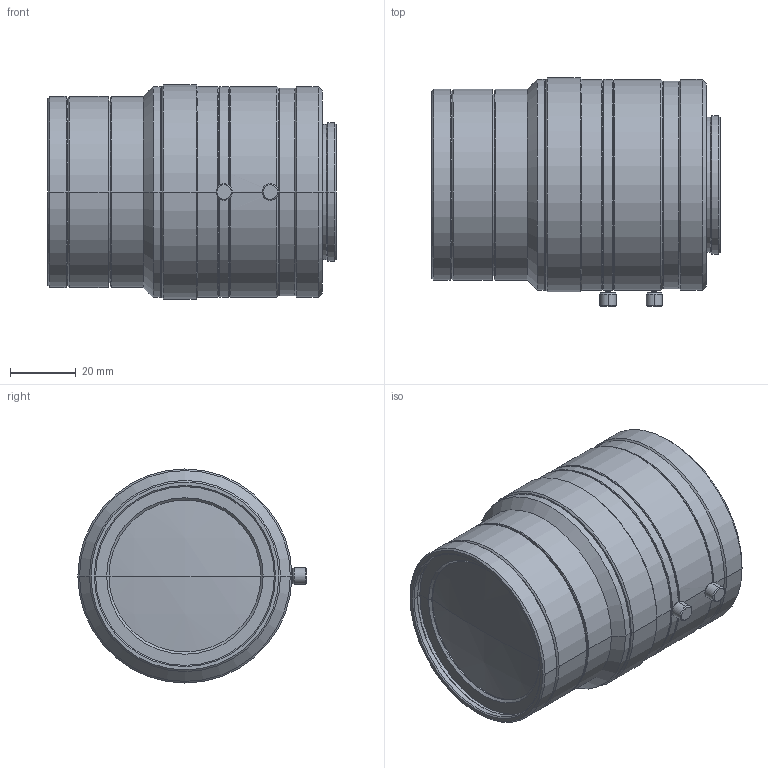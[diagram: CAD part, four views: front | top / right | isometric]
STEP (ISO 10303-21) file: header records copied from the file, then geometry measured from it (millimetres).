
FILE_DESCRIPTION (( 'STEP AP203' ), '1' );
FILE_NAME ('VS-25085_M42.STEP', '2020-07-31T02:04:01', ( '' ), ( '' ), 'SwSTEP 2.0', 'SolidWorks 2020', '' );
FILE_SCHEMA (( 'CONFIG_CONTROL_DESIGN' ));
Length unit declared in the file: millimetre
Products named in the file (1): VS-25085_M42
Bounding box: 87.46 x 69.3 x 65 mm (x, y, z)
Volume: 244086.8 mm3; surface area: 27196.1 mm2
Topology: 1 solids, 1 shells, 144 faces, 292 edges, 168 vertices
Faces by surface type: cone 70, cylinder 50, plane 20, sphere 4
Entity records: 3867 total; most frequent: DIRECTION 736, CARTESIAN_POINT 673, ORIENTED_EDGE 584, AXIS2_PLACEMENT_3D 307, EDGE_CURVE 292, VERTEX_POINT 168, CIRCLE 162, EDGE_LOOP 162
